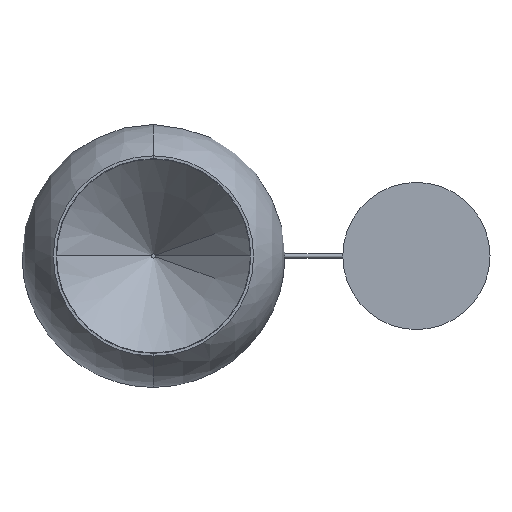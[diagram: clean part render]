
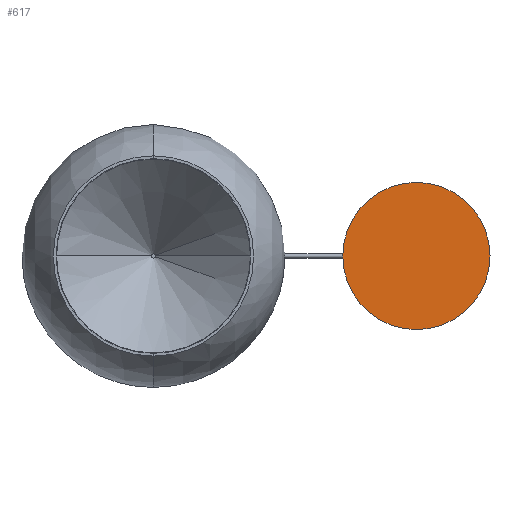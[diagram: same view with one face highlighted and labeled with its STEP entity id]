
A CAD part, front view. The second image highlights one B-rep face of the part: STEP entity #617.
In plain terms, the highlighted planar face has unit normal (0, -1, 0).
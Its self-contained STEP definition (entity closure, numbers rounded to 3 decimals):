
#114 = CARTESIAN_POINT ( 'NONE',  ( 0., 0., -70. ) ) ;
#276 = DIRECTION ( 'NONE',  ( 0., 1., 0. ) ) ;
#321 = PLANE ( 'NONE',  #952 ) ;
#342 = AXIS2_PLACEMENT_3D ( 'NONE', #1114, #537, #1461 ) ;
#401 = DIRECTION ( 'NONE',  ( 0., 0., 1. ) ) ;
#417 = FACE_OUTER_BOUND ( 'NONE', #645, .T. ) ;
#489 = CARTESIAN_POINT ( 'NONE',  ( 0., 0., 70. ) ) ;
#537 = DIRECTION ( 'NONE',  ( 0., 1., 0. ) ) ;
#560 = DIRECTION ( 'NONE',  ( 0., 0., 1. ) ) ;
#617 = ADVANCED_FACE ( 'NONE', ( #417 ), #321, .F. ) ;
#645 = EDGE_LOOP ( 'NONE', ( #1176, #939 ) ) ;
#673 = EDGE_CURVE ( 'NONE', #1207, #1311, #1175, .T. ) ;
#678 = DIRECTION ( 'NONE',  ( 0., 1., 0. ) ) ;
#759 = CARTESIAN_POINT ( 'NONE',  ( 0., 0., 0. ) ) ;
#798 = CARTESIAN_POINT ( 'NONE',  ( 0., 0., 0. ) ) ;
#939 = ORIENTED_EDGE ( 'NONE', *, *, #1315, .F. ) ;
#952 = AXIS2_PLACEMENT_3D ( 'NONE', #798, #678, #560 ) ;
#1029 = AXIS2_PLACEMENT_3D ( 'NONE', #759, #276, #401 ) ;
#1114 = CARTESIAN_POINT ( 'NONE',  ( 0., 0., 0. ) ) ;
#1175 = CIRCLE ( 'NONE', #342, 70. ) ;
#1176 = ORIENTED_EDGE ( 'NONE', *, *, #673, .F. ) ;
#1207 = VERTEX_POINT ( 'NONE', #114 ) ;
#1311 = VERTEX_POINT ( 'NONE', #489 ) ;
#1315 = EDGE_CURVE ( 'NONE', #1311, #1207, #1440, .T. ) ;
#1440 = CIRCLE ( 'NONE', #1029, 70. ) ;
#1461 = DIRECTION ( 'NONE',  ( 0., 0., 1. ) ) ;
